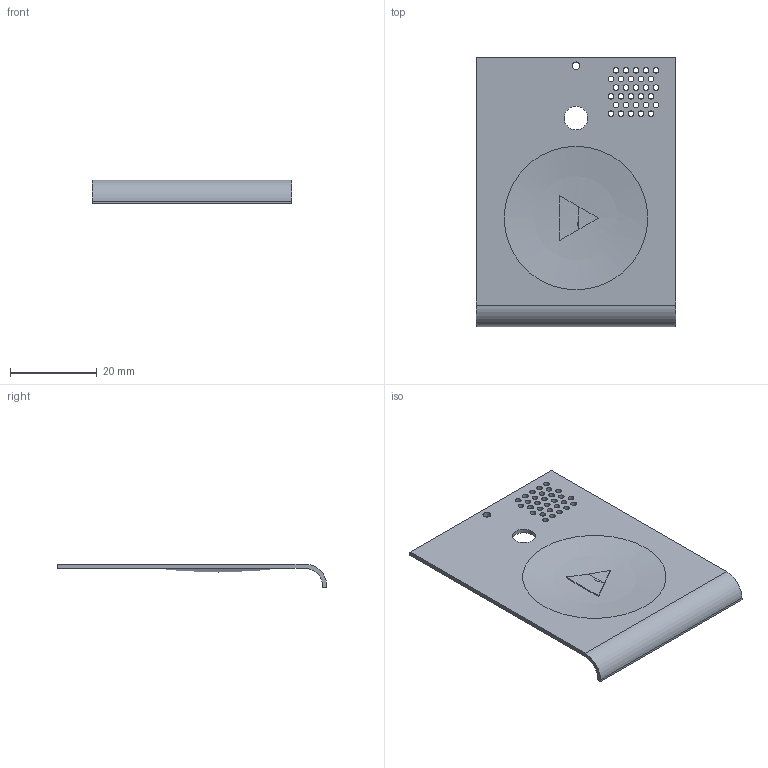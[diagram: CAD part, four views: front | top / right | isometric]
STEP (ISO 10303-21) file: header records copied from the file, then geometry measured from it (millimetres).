
FILE_DESCRIPTION(('Open CASCADE Model'),'2;1');
FILE_NAME('Open CASCADE Shape Model','2026-09-06T12:00:15',('Author'),( 'Open CASCADE'),'Open CASCADE STEP processor 7.7','Open CASCADE 7.7' ,'Unknown');
FILE_SCHEMA(('AUTOMOTIVE_DESIGN { 1 0 10303 214 1 1 1 1 }'));
Length unit declared in the file: millimetre
Products named in the file (1): Open CASCADE STEP translator 7.7 4
Bounding box: 46 x 62 x 5.5 mm (x, y, z)
Volume: 2748.7 mm3; surface area: 6211.4 mm2
Topology: 1 solids, 1 shells, 49 faces, 138 edges, 91 vertices
Faces by surface type: cylinder 35, plane 11, sphere 3
Full cylindrical faces by diameter (mm): 1.3 x30, 1.8 x1, 5.4 x1, 33 x1
Entity records: 4203 total; most frequent: CARTESIAN_POINT 1495, DIRECTION 489, ORIENTED_EDGE 272, PCURVE 272, DEFINITIONAL_REPRESENTATION 272, LINE 222, VECTOR 222, EDGE_CURVE 136
